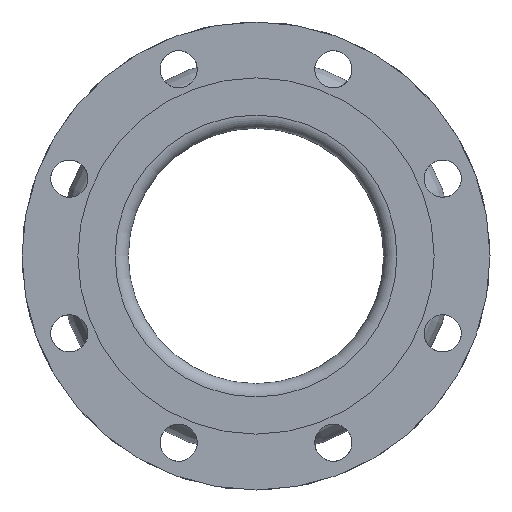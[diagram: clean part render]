
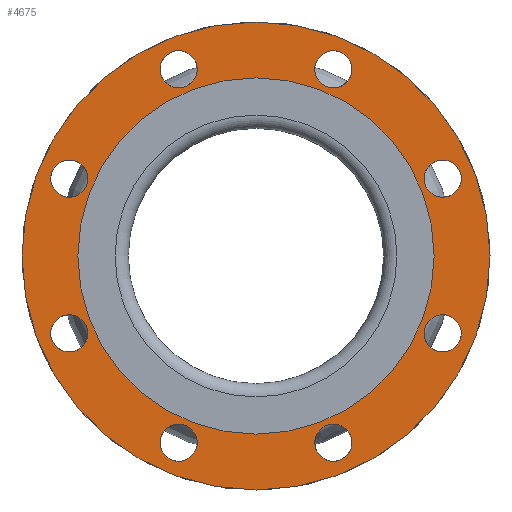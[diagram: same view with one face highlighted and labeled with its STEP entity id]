
A CAD part, left-side view. The second image highlights one B-rep face of the part: STEP entity #4675.
In plain terms, the highlighted planar face has unit normal (-1, 0, 0).
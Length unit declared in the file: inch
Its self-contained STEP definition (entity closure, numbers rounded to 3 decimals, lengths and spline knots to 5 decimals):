
#488=PLANE('',#4985);
#566=FACE_BOUND('',#1015,.T.);
#567=FACE_BOUND('',#1016,.T.);
#568=FACE_BOUND('',#1017,.T.);
#569=FACE_BOUND('',#1018,.T.);
#570=FACE_BOUND('',#1019,.T.);
#571=FACE_BOUND('',#1020,.T.);
#572=FACE_BOUND('',#1021,.T.);
#573=FACE_BOUND('',#1022,.T.);
#574=FACE_BOUND('',#1023,.T.);
#726=FACE_OUTER_BOUND('',#1014,.T.);
#1014=EDGE_LOOP('',(#2954));
#1015=EDGE_LOOP('',(#2955));
#1016=EDGE_LOOP('',(#2956));
#1017=EDGE_LOOP('',(#2957));
#1018=EDGE_LOOP('',(#2958));
#1019=EDGE_LOOP('',(#2959));
#1020=EDGE_LOOP('',(#2960));
#1021=EDGE_LOOP('',(#2961));
#1022=EDGE_LOOP('',(#2962));
#1023=EDGE_LOOP('',(#2963));
#1415=CIRCLE('',#4939,0.4375);
#1417=CIRCLE('',#4942,0.4375);
#1419=CIRCLE('',#4945,0.4375);
#1421=CIRCLE('',#4948,0.4375);
#1423=CIRCLE('',#4951,0.4375);
#1425=CIRCLE('',#4954,0.4375);
#1427=CIRCLE('',#4957,0.4375);
#1429=CIRCLE('',#4960,0.4375);
#1446=CIRCLE('',#4986,5.5);
#1447=CIRCLE('',#4987,4.1875);
#1827=VERTEX_POINT('',#7219);
#1829=VERTEX_POINT('',#7224);
#1831=VERTEX_POINT('',#7229);
#1833=VERTEX_POINT('',#7234);
#1835=VERTEX_POINT('',#7239);
#1837=VERTEX_POINT('',#7244);
#1839=VERTEX_POINT('',#7249);
#1841=VERTEX_POINT('',#7254);
#1858=VERTEX_POINT('',#7297);
#1859=VERTEX_POINT('',#7299);
#2287=EDGE_CURVE('',#1827,#1827,#1415,.T.);
#2289=EDGE_CURVE('',#1829,#1829,#1417,.T.);
#2291=EDGE_CURVE('',#1831,#1831,#1419,.T.);
#2293=EDGE_CURVE('',#1833,#1833,#1421,.T.);
#2295=EDGE_CURVE('',#1835,#1835,#1423,.T.);
#2297=EDGE_CURVE('',#1837,#1837,#1425,.T.);
#2299=EDGE_CURVE('',#1839,#1839,#1427,.T.);
#2301=EDGE_CURVE('',#1841,#1841,#1429,.T.);
#2318=EDGE_CURVE('',#1858,#1858,#1446,.T.);
#2319=EDGE_CURVE('',#1859,#1859,#1447,.T.);
#2954=ORIENTED_EDGE('',*,*,#2318,.F.);
#2955=ORIENTED_EDGE('',*,*,#2287,.T.);
#2956=ORIENTED_EDGE('',*,*,#2289,.T.);
#2957=ORIENTED_EDGE('',*,*,#2291,.T.);
#2958=ORIENTED_EDGE('',*,*,#2293,.T.);
#2959=ORIENTED_EDGE('',*,*,#2295,.T.);
#2960=ORIENTED_EDGE('',*,*,#2297,.T.);
#2961=ORIENTED_EDGE('',*,*,#2299,.T.);
#2962=ORIENTED_EDGE('',*,*,#2301,.T.);
#2963=ORIENTED_EDGE('',*,*,#2319,.T.);
#4675=ADVANCED_FACE('',(#726,#566,#567,#568,#569,#570,#571,#572,#573,#574),
#488,.T.);
#4939=AXIS2_PLACEMENT_3D('',#7220,#5627,#5628);
#4942=AXIS2_PLACEMENT_3D('',#7225,#5633,#5634);
#4945=AXIS2_PLACEMENT_3D('',#7230,#5639,#5640);
#4948=AXIS2_PLACEMENT_3D('',#7235,#5645,#5646);
#4951=AXIS2_PLACEMENT_3D('',#7240,#5651,#5652);
#4954=AXIS2_PLACEMENT_3D('',#7245,#5657,#5658);
#4957=AXIS2_PLACEMENT_3D('',#7250,#5663,#5664);
#4960=AXIS2_PLACEMENT_3D('',#7255,#5669,#5670);
#4985=AXIS2_PLACEMENT_3D('',#7296,#5719,#5720);
#4986=AXIS2_PLACEMENT_3D('',#7298,#5721,#5722);
#4987=AXIS2_PLACEMENT_3D('',#7300,#5723,#5724);
#5627=DIRECTION('center_axis',(1.,0.,0.));
#5628=DIRECTION('ref_axis',(0.,-0.707,-0.707));
#5633=DIRECTION('center_axis',(1.,0.,0.));
#5634=DIRECTION('ref_axis',(0.,-1.,0.));
#5639=DIRECTION('center_axis',(1.,0.,0.));
#5640=DIRECTION('ref_axis',(0.,-0.707,0.707));
#5645=DIRECTION('center_axis',(1.,0.,0.));
#5646=DIRECTION('ref_axis',(0.,0.,1.));
#5651=DIRECTION('center_axis',(1.,0.,0.));
#5652=DIRECTION('ref_axis',(0.,0.707,0.707));
#5657=DIRECTION('center_axis',(1.,0.,0.));
#5658=DIRECTION('ref_axis',(0.,1.,0.));
#5663=DIRECTION('center_axis',(1.,0.,0.));
#5664=DIRECTION('ref_axis',(0.,0.707,-0.707));
#5669=DIRECTION('center_axis',(1.,0.,0.));
#5670=DIRECTION('ref_axis',(0.,0.,-1.));
#5719=DIRECTION('center_axis',(-1.,0.,0.));
#5720=DIRECTION('ref_axis',(0.,0.,1.));
#5721=DIRECTION('center_axis',(1.,0.,0.));
#5722=DIRECTION('ref_axis',(0.,0.,-1.));
#5723=DIRECTION('center_axis',(1.,0.,0.));
#5724=DIRECTION('ref_axis',(0.,0.,-1.));
#7219=CARTESIAN_POINT('',(-5.,2.12711,-4.07907));
#7220=CARTESIAN_POINT('Origin',(-5.,1.81775,-4.38843));
#7224=CARTESIAN_POINT('',(-5.,-1.38025,-4.38843));
#7225=CARTESIAN_POINT('Origin',(-5.,-1.81775,-4.38843));
#7229=CARTESIAN_POINT('',(-5.,-4.07907,-2.12711));
#7230=CARTESIAN_POINT('Origin',(-5.,-4.38843,-1.81775));
#7234=CARTESIAN_POINT('',(-5.,-4.38843,1.38025));
#7235=CARTESIAN_POINT('Origin',(-5.,-4.38843,1.81775));
#7239=CARTESIAN_POINT('',(-5.,-2.12711,4.07907));
#7240=CARTESIAN_POINT('Origin',(-5.,-1.81775,4.38843));
#7244=CARTESIAN_POINT('',(-5.,1.38025,4.38843));
#7245=CARTESIAN_POINT('Origin',(-5.,1.81775,4.38843));
#7249=CARTESIAN_POINT('',(-5.,4.07907,2.12711));
#7250=CARTESIAN_POINT('Origin',(-5.,4.38843,1.81775));
#7254=CARTESIAN_POINT('',(-5.,4.38843,-1.38025));
#7255=CARTESIAN_POINT('Origin',(-5.,4.38843,-1.81775));
#7296=CARTESIAN_POINT('Origin',(-5.,5.5,0.));
#7297=CARTESIAN_POINT('',(-5.,5.5,0.));
#7298=CARTESIAN_POINT('Origin',(-5.,0.,0.));
#7299=CARTESIAN_POINT('',(-5.,4.1875,0.));
#7300=CARTESIAN_POINT('Origin',(-5.,0.,0.));
